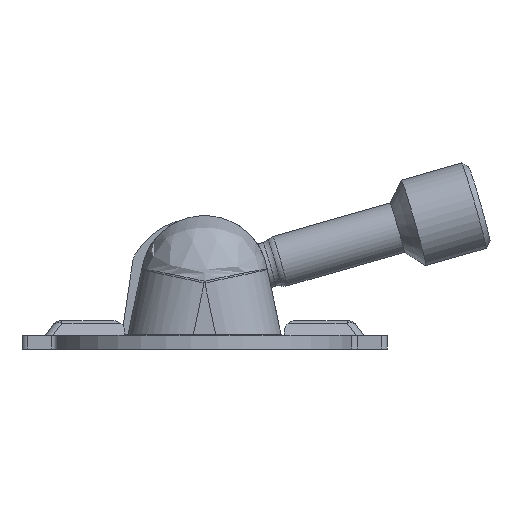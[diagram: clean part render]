
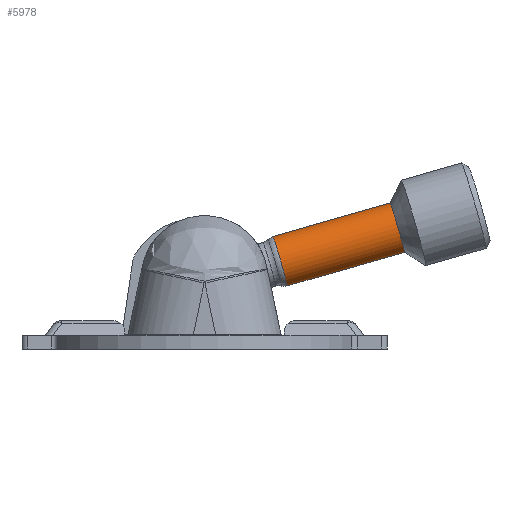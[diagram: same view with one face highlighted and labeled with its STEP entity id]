
A CAD part, left-side view. The second image highlights one B-rep face of the part: STEP entity #5978.
In plain terms, the highlighted cylindrical face has radius 2.25 mm (diameter 4.5 mm), a full revolution.
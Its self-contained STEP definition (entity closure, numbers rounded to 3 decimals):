
#98=FACE_BOUND('',#2143,.T.);
#1573=CYLINDRICAL_SURFACE('',#6425,2.25);
#1770=FACE_OUTER_BOUND('',#2142,.T.);
#2142=EDGE_LOOP('',(#4609));
#2143=EDGE_LOOP('',(#4610));
#2493=CIRCLE('',#6424,2.25);
#2494=CIRCLE('',#6426,2.25);
#2814=VERTEX_POINT('',#9382);
#2815=VERTEX_POINT('',#9385);
#3468=EDGE_CURVE('',#2814,#2814,#2493,.T.);
#3469=EDGE_CURVE('',#2815,#2815,#2494,.T.);
#4609=ORIENTED_EDGE('',*,*,#3469,.F.);
#4610=ORIENTED_EDGE('',*,*,#3468,.F.);
#5978=ADVANCED_FACE('',(#1770,#98),#1573,.T.);
#6424=AXIS2_PLACEMENT_3D('',#9383,#7429,#7430);
#6425=AXIS2_PLACEMENT_3D('',#9384,#7431,#7432);
#6426=AXIS2_PLACEMENT_3D('',#9386,#7433,#7434);
#7429=DIRECTION('center_axis',(-0.035,-0.999,0.));
#7430=DIRECTION('ref_axis',(0.,0.,
-1.));
#7431=DIRECTION('center_axis',(0.035,0.999,0.));
#7432=DIRECTION('ref_axis',(-0.999,0.035,0.));
#7433=DIRECTION('center_axis',(0.035,0.999,0.));
#7434=DIRECTION('ref_axis',(-0.999,0.035,0.));
#9382=CARTESIAN_POINT('',(30.083,6.876,2.25));
#9383=CARTESIAN_POINT('Origin',(30.083,6.876,0.));
#9384=CARTESIAN_POINT('Origin',(30.264,12.066,0.));
#9385=CARTESIAN_POINT('',(28.208,17.641,0.));
#9386=CARTESIAN_POINT('Origin',(30.456,17.563,0.));
